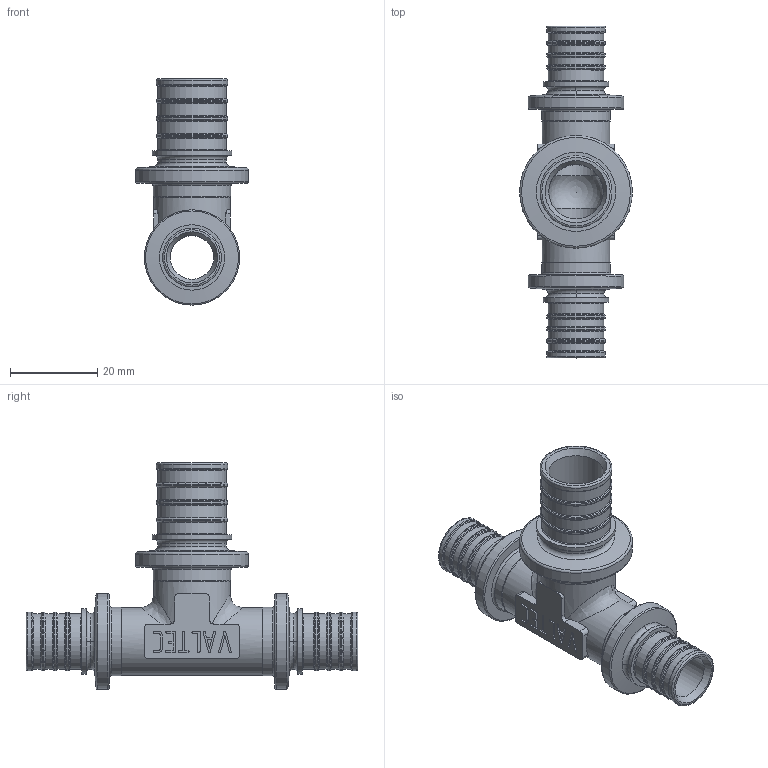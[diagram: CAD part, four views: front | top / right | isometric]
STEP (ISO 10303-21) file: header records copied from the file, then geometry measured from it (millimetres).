
FILE_DESCRIPTION(('STEP AP203'), '1');
FILE_NAME('覆.752241.003 - VTm.431.G.162016 秮鍣. 縺鳱', '', ('UNSPECIFIED'), ('UNSPECIFIED'), 'C3D Converter', 'C3D Toolkit', '');
FILE_SCHEMA(('CONFIG_CONTROL_DESIGN'));
Length unit declared in the file: millimetre
Products named in the file (1): ВР.752241.003
Bounding box: 25.9 x 76.2 x 51.95 mm (x, y, z)
Volume: 12347 mm3; surface area: 11237.6 mm2
Topology: 1 solids, 1 shells, 402 faces, 1051 edges, 672 vertices
Faces by surface type: extrusion 142, plane 126, torus 67, cylinder 55, cone 9, bspline 2, sphere 1
Full cylindrical faces by diameter (mm): 10 x2, 12.5 x1, 12.8 x8, 13.5 x8, 15 x2, 15.5 x1, 15.7 x5, 15.8 x2, 16.5 x4, 17.5 x1, 17.9 x1, 18.2 x1, 21.9 x2, 25.9 x1
Entity records: 16091 total; most frequent: CARTESIAN_POINT 3999, ORIENTED_EDGE 1854, DIRECTION 1438, EDGE_CURVE 927, VERTEX_POINT 657, VECTOR 584, EDGE_LOOP 536, B_SPLINE_CURVE_WITH_KNOTS 459
